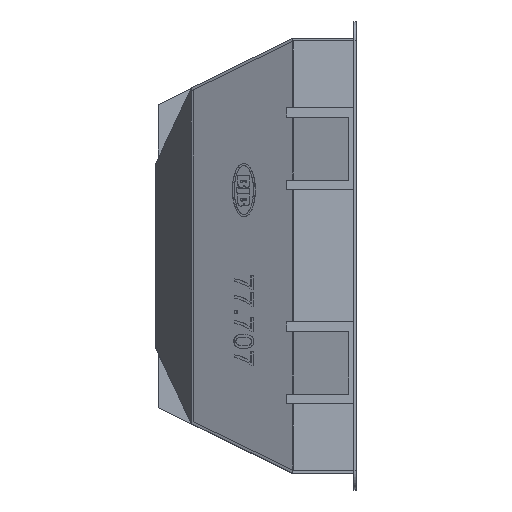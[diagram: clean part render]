
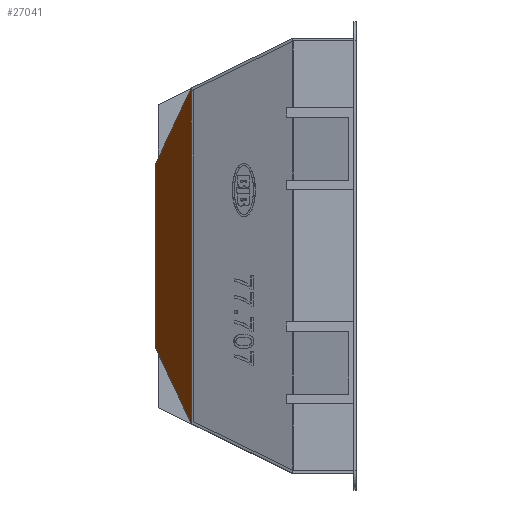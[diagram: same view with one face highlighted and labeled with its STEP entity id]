
A CAD part, top view. The second image highlights one B-rep face of the part: STEP entity #27041.
In plain terms, the highlighted planar face has unit normal (-0.904, 0, 0.428).
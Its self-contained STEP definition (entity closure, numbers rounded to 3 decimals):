
#21556=CARTESIAN_POINT(' ',(-26.2,26.648,48.748));
#21557=VERTEX_POINT(' ',#21556);
#21571=CARTESIAN_POINT(' ',(-26.2,-26.648,48.748));
#21576=DIRECTION(' ',(0.,1.,0.));
#21581=VECTOR(' ',#21576,1.);
#21586=LINE('',#21571,#21581);
#21591=CARTESIAN_POINT(' ',(-26.2,-26.648,48.748));
#21592=VERTEX_POINT(' ',#21591);
#21596=EDGE_CURVE(' ',#21592,#21557,#21586,.T.);
#26901=DIRECTION(' ',(-0.904,-0.,0.428));
#26906=CARTESIAN_POINT(' ',(-26.2,-26.648,48.748));
#26911=DIRECTION(' ',(0.,1.,0.));
#26916=AXIS2_PLACEMENT_3D(' ',#26906,#26901,#26911);
#26921=PLANE('',#26916);
#26926=CARTESIAN_POINT(' ',(-26.2,26.648,48.748));
#26931=DIRECTION(' ',(-0.317,-0.671,-0.67));
#26936=VECTOR(' ',#26931,1.);
#26941=LINE('',#26926,#26936);
#26946=CARTESIAN_POINT(' ',(-31.9,14.589,36.7));
#26947=VERTEX_POINT(' ',#26946);
#26951=EDGE_CURVE(' ',#21557,#26947,#26941,.T.);
#26956=ORIENTED_EDGE(' ',*,*,#26951,.T.);
#26961=CARTESIAN_POINT(' ',(-31.9,-14.589,36.7));
#26966=DIRECTION(' ',(0.,1.,0.));
#26971=VECTOR(' ',#26966,1.);
#26976=LINE('',#26961,#26971);
#26981=CARTESIAN_POINT(' ',(-31.9,-14.589,36.7));
#26982=VERTEX_POINT(' ',#26981);
#26986=EDGE_CURVE(' ',#26982,#26947,#26976,.T.);
#26991=ORIENTED_EDGE(' ',*,*,#26986,.F.);
#26996=CARTESIAN_POINT(' ',(-31.9,-14.589,36.7));
#27001=DIRECTION(' ',(0.317,-0.671,0.67));
#27006=VECTOR(' ',#27001,1.);
#27011=LINE('',#26996,#27006);
#27016=EDGE_CURVE(' ',#26982,#21592,#27011,.T.);
#27021=ORIENTED_EDGE(' ',*,*,#27016,.T.);
#27026=ORIENTED_EDGE(' ',*,*,#21596,.T.);
#27031=EDGE_LOOP(' ',(#26956,#26991,#27021,#27026));
#27036=FACE_OUTER_BOUND(' ',#27031,.T.);
#27041=ADVANCED_FACE('',(#27036),#26921,.T.);
